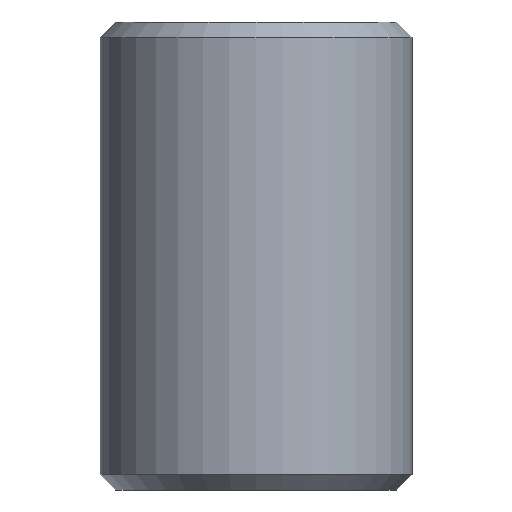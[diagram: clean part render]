
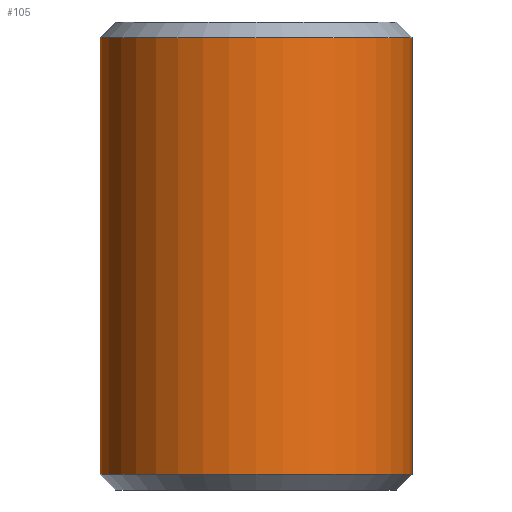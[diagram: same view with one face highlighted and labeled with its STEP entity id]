
A CAD part, front view. The second image highlights one B-rep face of the part: STEP entity #105.
In plain terms, the highlighted cylindrical face has radius 20 mm (diameter 40 mm), a full revolution.
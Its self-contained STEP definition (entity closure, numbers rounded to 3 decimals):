
#105=ADVANCED_FACE('',(#113,#114),#111,.T.);
#111=CYLINDRICAL_SURFACE('',#166,20.);
#113=FACE_BOUND('',#121,.T.);
#114=FACE_BOUND('',#122,.T.);
#121=EDGE_LOOP('',(#133));
#122=EDGE_LOOP('',(#134));
#133=ORIENTED_EDGE('',*,*,#151,.T.);
#134=ORIENTED_EDGE('',*,*,#152,.T.);
#145=VERTEX_POINT('',#204);
#146=VERTEX_POINT('',#206);
#151=EDGE_CURVE('',#145,#145,#157,.T.);
#152=EDGE_CURVE('',#146,#146,#158,.T.);
#157=CIRCLE('',#164,20.);
#158=CIRCLE('',#165,20.);
#164=AXIS2_PLACEMENT_3D('',#203,#178,#179);
#165=AXIS2_PLACEMENT_3D('',#205,#180,#181);
#166=AXIS2_PLACEMENT_3D('',#207,#182,#183);
#178=DIRECTION('',(0.,0.,1.));
#179=DIRECTION('',(1.,0.,0.));
#180=DIRECTION('',(0.,0.,-1.));
#181=DIRECTION('',(1.,0.,0.));
#182=DIRECTION('',(0.,0.,-1.));
#183=DIRECTION('',(-1.,0.,0.));
#203=CARTESIAN_POINT('',(0.,0.098,2.));
#204=CARTESIAN_POINT('',(20.,0.098,2.));
#205=CARTESIAN_POINT('',(0.,0.098,58.));
#206=CARTESIAN_POINT('',(20.,0.098,58.));
#207=CARTESIAN_POINT('',(0.,0.098,60.));
